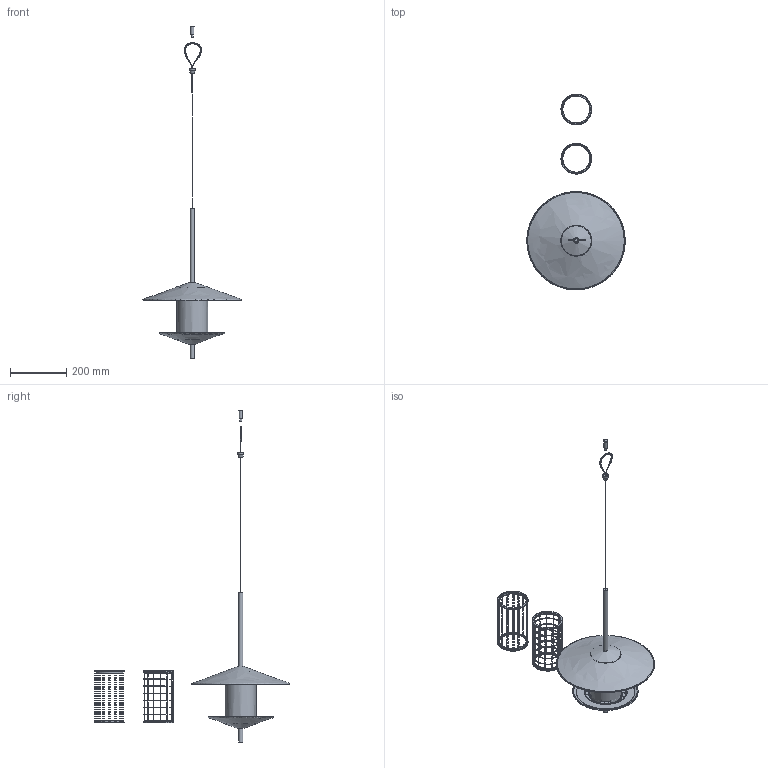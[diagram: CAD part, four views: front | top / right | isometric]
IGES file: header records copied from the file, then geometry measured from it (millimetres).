
Global section: file name: /Users/carolinacolombo/Desktop/Danese/Sito/3D mancanti/Ori_originali/Ori_Suspension_Bird feeder.igs; native system: Rhinoceros ( Dec  3 2024 ); preprocessor: Trout Lake IGES 012 Dec  3 2024; date: 261006.141607; units: millimetre
Bounding box: 349.97 x 697.18 x 1182.66 mm (x, y, z)
Surface area: 647747.7 mm2 (no closed solid volume)
Topology: 0 solids, 0 shells, 476 faces, 3653 edges, 3393 vertices
Faces by surface type: bspline 476
